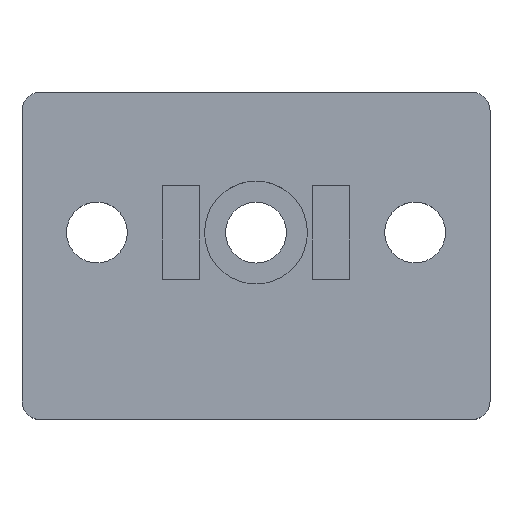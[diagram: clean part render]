
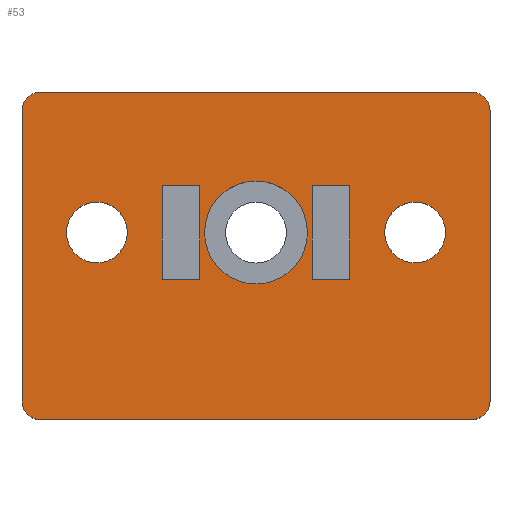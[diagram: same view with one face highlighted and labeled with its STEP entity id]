
A CAD part, top view. The second image highlights one B-rep face of the part: STEP entity #53.
In plain terms, the highlighted planar face has unit normal (0, 0, 1).
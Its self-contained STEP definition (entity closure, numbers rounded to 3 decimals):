
#53=ADVANCED_FACE('',(#350,#352,#354,#356,#358,#360),#362,.T.);
#350=FACE_BOUND('',#351,.T.);
#351=EDGE_LOOP('',(#615,#616,#617,#618,#619,#620,#621,#622));
#352=FACE_BOUND('',#353,.T.);
#353=EDGE_LOOP('',(#623,#624,#625,#626));
#354=FACE_BOUND('',#355,.T.);
#355=EDGE_LOOP('',(#627,#628,#629,#630));
#356=FACE_BOUND('',#357,.T.);
#357=EDGE_LOOP('',(#631));
#358=FACE_BOUND('',#359,.T.);
#359=EDGE_LOOP('',(#632));
#360=FACE_BOUND('',#361,.T.);
#361=EDGE_LOOP('',(#633));
#362=PLANE('',#363);
#363=AXIS2_PLACEMENT_3D('',#364,#365,#366);
#364=CARTESIAN_POINT('',(0.,0.,12.));
#365=DIRECTION('',(0.,0.,1.));
#366=DIRECTION('',(-1.,0.,0.));
#615=ORIENTED_EDGE('',*,*,#759,.F.);
#616=ORIENTED_EDGE('',*,*,#760,.T.);
#617=ORIENTED_EDGE('',*,*,#761,.F.);
#618=ORIENTED_EDGE('',*,*,#762,.T.);
#619=ORIENTED_EDGE('',*,*,#763,.F.);
#620=ORIENTED_EDGE('',*,*,#764,.T.);
#621=ORIENTED_EDGE('',*,*,#765,.F.);
#622=ORIENTED_EDGE('',*,*,#766,.T.);
#623=ORIENTED_EDGE('',*,*,#767,.F.);
#624=ORIENTED_EDGE('',*,*,#768,.F.);
#625=ORIENTED_EDGE('',*,*,#769,.F.);
#626=ORIENTED_EDGE('',*,*,#770,.F.);
#627=ORIENTED_EDGE('',*,*,#771,.F.);
#628=ORIENTED_EDGE('',*,*,#772,.F.);
#629=ORIENTED_EDGE('',*,*,#773,.F.);
#630=ORIENTED_EDGE('',*,*,#774,.F.);
#631=ORIENTED_EDGE('',*,*,#775,.T.);
#632=ORIENTED_EDGE('',*,*,#776,.T.);
#633=ORIENTED_EDGE('',*,*,#777,.T.);
#759=EDGE_CURVE('',#831,#832,#833,.F.);
#760=EDGE_CURVE('',#831,#834,#835,.T.);
#761=EDGE_CURVE('',#836,#834,#837,.F.);
#762=EDGE_CURVE('',#836,#838,#839,.T.);
#763=EDGE_CURVE('',#840,#838,#841,.F.);
#764=EDGE_CURVE('',#840,#842,#843,.T.);
#765=EDGE_CURVE('',#844,#842,#845,.F.);
#766=EDGE_CURVE('',#844,#832,#846,.T.);
#767=EDGE_CURVE('',#847,#848,#849,.T.);
#768=EDGE_CURVE('',#850,#847,#851,.T.);
#769=EDGE_CURVE('',#852,#850,#853,.T.);
#770=EDGE_CURVE('',#848,#852,#854,.T.);
#771=EDGE_CURVE('',#855,#856,#857,.T.);
#772=EDGE_CURVE('',#858,#855,#859,.T.);
#773=EDGE_CURVE('',#860,#858,#861,.T.);
#774=EDGE_CURVE('',#856,#860,#862,.T.);
#775=EDGE_CURVE('',#863,#863,#864,.F.);
#776=EDGE_CURVE('',#865,#865,#866,.F.);
#777=EDGE_CURVE('',#867,#867,#868,.F.);
#831=VERTEX_POINT('',#955);
#832=VERTEX_POINT('',#956);
#833=CIRCLE('',#957,2.);
#834=VERTEX_POINT('',#961);
#835=LINE('',#962,#963);
#836=VERTEX_POINT('',#965);
#837=CIRCLE('',#966,2.);
#838=VERTEX_POINT('',#970);
#839=LINE('',#971,#972);
#840=VERTEX_POINT('',#974);
#841=CIRCLE('',#975,2.);
#842=VERTEX_POINT('',#979);
#843=LINE('',#980,#981);
#844=VERTEX_POINT('',#983);
#845=CIRCLE('',#984,2.);
#846=LINE('',#988,#989);
#847=VERTEX_POINT('',#991);
#848=VERTEX_POINT('',#992);
#849=LINE('',#993,#994);
#850=VERTEX_POINT('',#996);
#851=LINE('',#997,#998);
#852=VERTEX_POINT('',#1000);
#853=LINE('',#1001,#1002);
#854=LINE('',#1004,#1005);
#855=VERTEX_POINT('',#1007);
#856=VERTEX_POINT('',#1008);
#857=LINE('',#1009,#1010);
#858=VERTEX_POINT('',#1012);
#859=LINE('',#1013,#1014);
#860=VERTEX_POINT('',#1016);
#861=LINE('',#1017,#1018);
#862=LINE('',#1020,#1021);
#863=VERTEX_POINT('',#1023);
#864=CIRCLE('',#1024,3.25);
#865=VERTEX_POINT('',#1028);
#866=CIRCLE('',#1029,3.25);
#867=VERTEX_POINT('',#1033);
#868=CIRCLE('',#1034,5.5);
#955=CARTESIAN_POINT('',(-2.,7.5,12.));
#956=CARTESIAN_POINT('',(0.,5.5,12.));
#957=AXIS2_PLACEMENT_3D('',#958,#959,#960);
#958=CARTESIAN_POINT('',(-2.,5.5,12.));
#959=DIRECTION('',(0.,0.,1.));
#960=DIRECTION('',(1.,0.,0.));
#961=CARTESIAN_POINT('',(-48.,7.5,12.));
#962=CARTESIAN_POINT('',(-2.,7.5,12.));
#963=VECTOR('',#964,1.);
#964=DIRECTION('',(-1.,0.,0.));
#965=CARTESIAN_POINT('',(-50.,5.5,12.));
#966=AXIS2_PLACEMENT_3D('',#967,#968,#969);
#967=CARTESIAN_POINT('',(-48.,5.5,12.));
#968=DIRECTION('',(0.,0.,1.));
#969=DIRECTION('',(0.,1.,0.));
#970=CARTESIAN_POINT('',(-50.,-25.5,12.));
#971=CARTESIAN_POINT('',(-50.,5.5,12.));
#972=VECTOR('',#973,1.);
#973=DIRECTION('',(0.,-1.,0.));
#974=CARTESIAN_POINT('',(-48.,-27.5,12.));
#975=AXIS2_PLACEMENT_3D('',#976,#977,#978);
#976=CARTESIAN_POINT('',(-48.,-25.5,12.));
#977=DIRECTION('',(0.,0.,1.));
#978=DIRECTION('',(-1.,0.,0.));
#979=CARTESIAN_POINT('',(-2.,-27.5,12.));
#980=CARTESIAN_POINT('',(-48.,-27.5,12.));
#981=VECTOR('',#982,1.);
#982=DIRECTION('',(1.,0.,0.));
#983=CARTESIAN_POINT('',(0.,-25.5,12.));
#984=AXIS2_PLACEMENT_3D('',#985,#986,#987);
#985=CARTESIAN_POINT('',(-2.,-25.5,12.));
#986=DIRECTION('',(0.,0.,1.));
#987=DIRECTION('',(0.,-1.,0.));
#988=CARTESIAN_POINT('',(0.,-25.5,12.));
#989=VECTOR('',#990,1.);
#990=DIRECTION('',(0.,1.,0.));
#991=CARTESIAN_POINT('',(-35.,-12.5,12.));
#992=CARTESIAN_POINT('',(-31.,-12.5,12.));
#993=CARTESIAN_POINT('',(-35.,-12.5,12.));
#994=VECTOR('',#995,1.);
#995=DIRECTION('',(1.,0.,0.));
#996=CARTESIAN_POINT('',(-35.,-2.5,12.));
#997=CARTESIAN_POINT('',(-35.,-2.5,12.));
#998=VECTOR('',#999,1.);
#999=DIRECTION('',(0.,-1.,0.));
#1000=CARTESIAN_POINT('',(-31.,-2.5,12.));
#1001=CARTESIAN_POINT('',(-31.,-2.5,12.));
#1002=VECTOR('',#1003,1.);
#1003=DIRECTION('',(-1.,0.,0.));
#1004=CARTESIAN_POINT('',(-31.,-12.5,12.));
#1005=VECTOR('',#1006,1.);
#1006=DIRECTION('',(0.,1.,0.));
#1007=CARTESIAN_POINT('',(-19.,-12.5,12.));
#1008=CARTESIAN_POINT('',(-15.,-12.5,12.));
#1009=CARTESIAN_POINT('',(-19.,-12.5,12.));
#1010=VECTOR('',#1011,1.);
#1011=DIRECTION('',(1.,0.,0.));
#1012=CARTESIAN_POINT('',(-19.,-2.5,12.));
#1013=CARTESIAN_POINT('',(-19.,-2.5,12.));
#1014=VECTOR('',#1015,1.);
#1015=DIRECTION('',(0.,-1.,0.));
#1016=CARTESIAN_POINT('',(-15.,-2.5,12.));
#1017=CARTESIAN_POINT('',(-15.,-2.5,12.));
#1018=VECTOR('',#1019,1.);
#1019=DIRECTION('',(-1.,0.,0.));
#1020=CARTESIAN_POINT('',(-15.,-12.5,12.));
#1021=VECTOR('',#1022,1.);
#1022=DIRECTION('',(0.,1.,0.));
#1023=CARTESIAN_POINT('',(-45.25,-7.5,12.));
#1024=AXIS2_PLACEMENT_3D('',#1025,#1026,#1027);
#1025=CARTESIAN_POINT('',(-42.,-7.5,12.));
#1026=DIRECTION('',(0.,0.,1.));
#1027=DIRECTION('',(-1.,0.,0.));
#1028=CARTESIAN_POINT('',(-11.25,-7.5,12.));
#1029=AXIS2_PLACEMENT_3D('',#1030,#1031,#1032);
#1030=CARTESIAN_POINT('',(-8.,-7.5,12.));
#1031=DIRECTION('',(0.,0.,1.));
#1032=DIRECTION('',(-1.,0.,0.));
#1033=CARTESIAN_POINT('',(-19.5,-7.5,12.));
#1034=AXIS2_PLACEMENT_3D('',#1035,#1036,#1037);
#1035=CARTESIAN_POINT('',(-25.,-7.5,12.));
#1036=DIRECTION('',(0.,0.,1.));
#1037=DIRECTION('',(1.,0.,0.));
